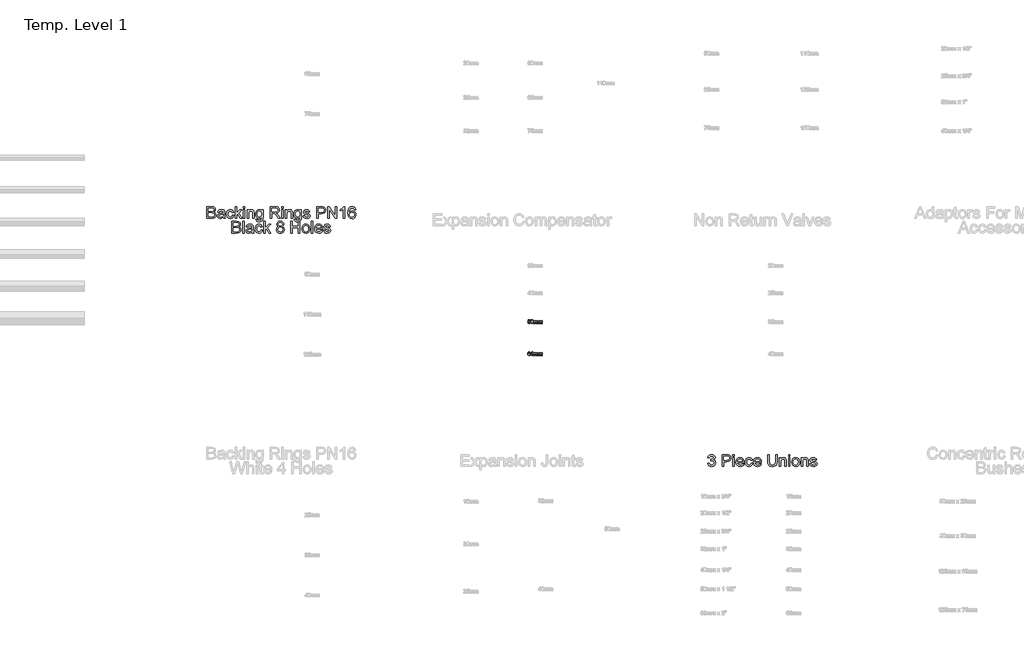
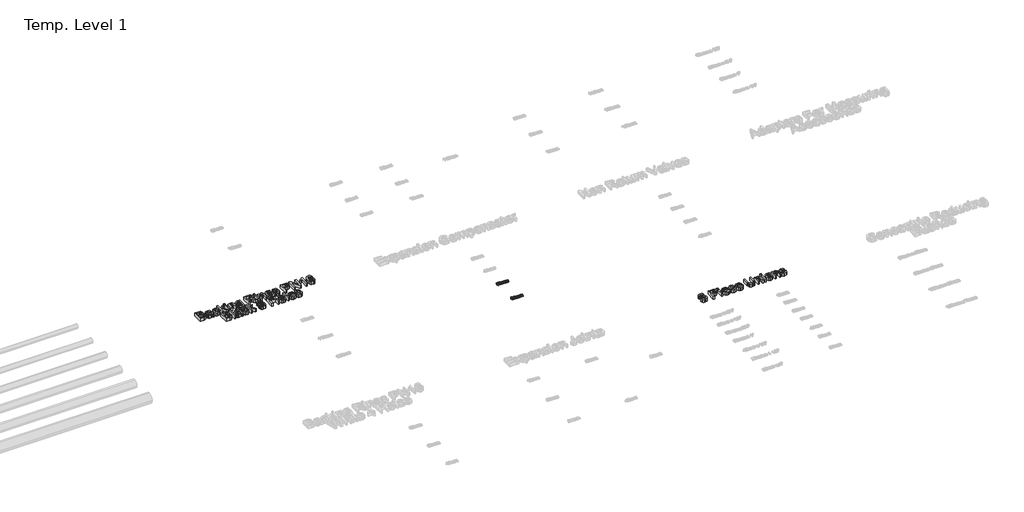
# One storey, part 15 of 62: 4 proxies.
"""IFC4 building model written with IfcOpenShell, lengths in millimetres."""

from ifc_helpers import new_model, si_unit, origin, origin_with_axes, place, context, project, spatial, polyline, outline, extrude, element, save

model = new_model("IFC4")

# Units and contexts
model_context = context("Model", 3, world=origin())
ifc_project = project(units=[si_unit("LENGTHUNIT", "METRE", prefix="MILLI")], contexts=[model_context])

# Site, building, storey
site = spatial("IfcSite", under=ifc_project)
building = spatial("IfcBuilding", under=site)
storey = spatial("IfcBuildingStorey", under=building, Name="Temp. Level 1", Elevation=0.0)

# Proxies
placement = place(None, origin())
element("IfcBuildingElementProxy", 1, Name="150mm Arial", ObjectType="150mm Arial", at=placement, inside=storey, context=model_context, shape_type="SweptSolid", body=[
    extrude(outline(polyline([(8496.1176365, -979.0446709), (8496.1176365, -831.3523632), (8552.4758096, -831.3523632), (8580.0779731, -835.6973151), (8589.3538144, -841.2096348), (8596.37605, -849.0566901), (8602.2714827, -867.9509209), (8597.31355, -885.2045266), (8582.3315788, -898.2754401), (8592.7928168, -903.7381805), (8600.5226846, -912.0494786), (8605.2958216, -922.6594545), (8606.8868673, -935.0182286), (8602.5419154, -954.8679882), (8591.7786942, -969.0026036), (8575.7149923, -976.5026036), (8552.0431173, -979.0446709), (8496.1176365, -979.0446709)]), holes=[polyline([(8514.579175, -960.5831324), (8552.4397519, -960.5831324), (8566.141675, -959.8619786), (8577.7342231, -955.8415459), (8585.4145115, -947.6384209), (8588.4253288, -935.198517), (8584.891675, -920.8475555), (8573.4433577, -912.2838536), (8550.6368673, -909.8139016), (8514.579175, -909.8139016), (8514.579175, -960.5831324)]), polyline([(8514.579175, -891.3523632), (8548.2931173, -891.3523632), (8567.9806173, -889.7658247), (8579.8255692, -882.932892), (8583.8099442, -870.9076516), (8580.0960019, -858.8643824), (8569.4589827, -851.7429882), (8545.7330212, -849.8139016), (8514.579175, -849.8139016), (8514.579175, -891.3523632)])]), origin_with_axes(), (0.0, 0.0, 1.0), 50.0),
    extrude(outline(polyline([(8699.1945596, -965.198517), (8681.2919154, -977.7105362), (8661.5142712, -981.3523632), (8646.0860861, -979.1618584), (8634.7053769, -972.5903439), (8627.6876486, -962.6113776), (8625.3484058, -950.198517), (8628.8820596, -935.5951516), (8638.1669154, -924.9941901), (8651.0935981, -918.9364978), (8667.0671558, -916.1600555), (8699.0863865, -909.8139016), (8699.1945596, -905.7033247), (8697.923526, -897.464142), (8694.110425, -892.073517), (8685.5827808, -888.0711132), (8673.7017712, -886.7369786), (8655.0238865, -890.2886612), (8646.1176365, -902.8908247), (8627.6560981, -900.5831324), (8635.6428769, -882.5542862), (8651.7246077, -871.9893824), (8676.0815788, -868.2754401), (8698.4553769, -871.5566901), (8711.0935981, -879.7958728), (8716.7546558, -892.3259209), (8717.6560981, -908.479767), (8717.6560981, -931.448517), (8718.5935981, -963.5218343), (8722.2714827, -979.0446709), (8703.8099442, -979.0446709), (8699.1945596, -965.198517)]), holes=[polyline([(8699.1945596, -928.2754401), (8669.4109058, -933.9364978), (8653.5274923, -936.9292862), (8646.3339827, -941.7970747), (8643.8099442, -948.9004401), (8649.3087423, -958.8884209), (8665.4445596, -962.8908247), (8684.1224442, -958.4737574), (8696.1657135, -947.7826516), (8699.0863865, -933.5038055), (8699.1945596, -928.2754401)])]), origin_with_axes(), (0.0, 0.0, 1.0), 50.0),
    extrude(outline(polyline([(8812.2714827, -939.8139016), (8830.7330212, -942.1215939), (8825.5857856, -958.5413656), (8815.9133096, -970.9497189), (8802.62605, -978.7517021), (8786.6344635, -981.3523632), (8766.9965428, -977.7240579), (8751.6404731, -966.839142), (8741.7291149, -949.17538), (8738.4253288, -925.2105362), (8744.0683577, -894.5434689), (8751.1897519, -883.0455723), (8761.2678769, -874.8379401), (8773.3246678, -869.9160651), (8786.3820596, -868.2754401), (8801.9815188, -870.5290459), (8814.4529731, -877.2898632), (8823.399788, -888.1973151), (8828.4253288, -902.8908247), (8809.9637904, -905.198517), (8801.4000885, -891.370392), (8786.5262904, -886.7369786), (8774.5957014, -889.0176276), (8765.12605, -895.8595747), (8758.946663, -907.6324112), (8756.8868673, -924.7057286), (8758.9015909, -942.0089137), (8764.9457615, -953.8223151), (8774.2441389, -960.6236973), (8786.0214827, -962.8908247), (8795.5812784, -961.4755603), (8803.4193192, -957.229767), (8809.1209418, -950.0452718), (8812.2714827, -939.8139016)])), origin_with_axes(), (0.0, 0.0, 1.0), 50.0),
    extrude(outline(polyline([(8846.8868673, -979.0446709), (8846.8868673, -831.3523632), (8865.3484058, -831.3523632), (8865.3484058, -910.7153439), (8906.7426365, -870.5831324), (8932.2714827, -870.5831324), (8890.3724442, -911.2201516), (8934.579175, -979.0446709), (8913.016675, -979.0446709), (8877.1392712, -924.0566901), (8865.3484058, -935.4869786), (8865.3484058, -979.0446709), (8846.8868673, -979.0446709)])), origin_with_axes(), (0.0, 0.0, 1.0), 50.0),
    extrude(outline(polyline([(8950.7330212, -979.0446709), (8950.7330212, -870.5831324), (8969.1945596, -870.5831324), (8969.1945596, -979.0446709), (8950.7330212, -979.0446709)])), origin_with_axes(), (0.0, 0.0, 1.0), 50.0),
    extrude(outline(polyline([(8950.7330212, -849.8139016), (8950.7330212, -831.3523632), (8969.1945596, -831.3523632), (8969.1945596, -849.8139016), (8950.7330212, -849.8139016)])), origin_with_axes(), (0.0, 0.0, 1.0), 50.0),
    extrude(outline(polyline([(8996.8868673, -979.0446709), (8996.8868673, -870.5831324), (9015.3484058, -870.5831324), (9015.3484058, -885.7273632), (9029.4649923, -872.6384209), (9048.7378288, -868.2754401), (9066.1717231, -871.7910651), (9078.0707615, -881.0218343), (9083.6056173, -894.5975555), (9084.579175, -912.4461132), (9084.579175, -979.0446709), (9066.1176365, -979.0446709), (9066.1176365, -914.9340939), (9063.9902327, -898.5999593), (9056.4722038, -889.964142), (9043.797925, -886.7369786), (9032.9851245, -888.5488776), (9023.7678769, -893.9845747), (9017.4532736, -904.4863776), (9015.3484058, -921.4965939), (9015.3484058, -979.0446709), (8996.8868673, -979.0446709)])), origin_with_axes(), (0.0, 0.0, 1.0), 50.0),
    extrude(outline(polyline([(9105.3484058, -988.2754401), (9123.8099442, -990.5831324), (9129.7955212, -1000.3187093), (9147.7161942, -1004.4292862), (9166.610425, -999.7778439), (9175.6248481, -986.7249593), (9176.8868673, -965.198517), (9163.8880692, -975.5831324), (9148.0407135, -979.0446709), (9129.0067591, -975.0152237), (9114.81355, -962.9268824), (9105.9839226, -945.2045266), (9103.0407135, -924.2730362), (9108.3231654, -895.6612574), (9114.7865067, -884.0461733), (9123.6116269, -875.4148632), (9134.4965428, -870.0602959), (9147.1392712, -868.2754401), (9163.6086221, -872.3139016), (9176.8868673, -884.4292862), (9176.8868673, -870.5831324), (9195.3484058, -870.5831324), (9195.3484058, -964.2249593), (9194.0863865, -985.8460531), (9190.3003288, -1000.0843343), (9183.7783938, -1009.5269425), (9174.3087423, -1016.761017), (9162.0987063, -1021.3583728), (9147.3556173, -1022.8908247), (9130.1786341, -1020.7318704), (9116.6524923, -1014.2550074), (9107.9761101, -1003.4422069), (9105.3484058, -988.2754401)]), holes=[polyline([(9121.5022519, -923.011017), (9123.4719034, -939.9446108), (9129.3808577, -951.5867382), (9138.2645716, -958.3340338), (9149.1585019, -960.5831324), (9159.9713024, -958.3475555), (9168.9000885, -951.6408247), (9174.8901726, -940.1474353), (9176.8868673, -923.5518824), (9174.8315788, -907.5467742), (9168.6657135, -896.0218343), (9159.6062183, -889.0581925), (9148.8700404, -886.7369786), (9138.3276726, -889.0221348), (9129.4890308, -895.8776036), (9123.4989466, -907.2312694), (9121.5022519, -923.011017)])]), origin_with_axes(), (0.0, 0.0, 1.0), 50.0),
    extrude(outline(polyline([(9283.0407135, -979.0446709), (9283.0407135, -831.3523632), (9346.6825404, -831.3523632), (9376.2318192, -835.3367382), (9385.3273721, -840.8535651), (9392.3856654, -849.4352959), (9396.915413, -860.0768223), (9398.4253288, -871.7730362), (9395.9238264, -886.3223151), (9388.4193192, -898.3836132), (9375.6864466, -907.2267622), (9357.4998481, -912.1215939), (9367.9926365, -920.0182286), (9382.9565788, -939.0206324), (9407.5839827, -979.0446709), (9386.1296558, -979.0446709), (9366.9109058, -948.4316901), (9353.0286942, -928.167267), (9343.2750885, -918.5939497), (9334.4950404, -915.0783247), (9323.7859058, -914.4292862), (9301.5022519, -914.4292862), (9301.5022519, -979.0446709), (9283.0407135, -979.0446709)]), holes=[polyline([(9301.5022519, -895.9677478), (9342.8243673, -895.9677478), (9363.9000885, -893.3535651), (9375.8712423, -884.9881805), (9379.9637904, -872.4581324), (9378.0121678, -863.4527237), (9372.1573, -856.1961132), (9362.0836822, -851.4094545), (9347.4758096, -849.8139016), (9301.5022519, -849.8139016), (9301.5022519, -895.9677478)])]), origin_with_axes(), (0.0, 0.0, 1.0), 50.0),
    extrude(outline(polyline([(9428.4253288, -979.0446709), (9428.4253288, -870.5831324), (9446.8868673, -870.5831324), (9446.8868673, -979.0446709), (9428.4253288, -979.0446709)])), origin_with_axes(), (0.0, 0.0, 1.0), 50.0),
    extrude(outline(polyline([(9428.4253288, -849.8139016), (9428.4253288, -831.3523632), (9446.8868673, -831.3523632), (9446.8868673, -849.8139016), (9428.4253288, -849.8139016)])), origin_with_axes(), (0.0, 0.0, 1.0), 50.0),
    extrude(outline(polyline([(9474.579175, -979.0446709), (9474.579175, -870.5831324), (9493.0407135, -870.5831324), (9493.0407135, -885.7273632), (9507.1573, -872.6384209), (9526.4301365, -868.2754401), (9543.8640308, -871.7910651), (9555.7630692, -881.0218343), (9561.297925, -894.5975555), (9562.2714827, -912.4461132), (9562.2714827, -979.0446709), (9543.8099442, -979.0446709), (9543.8099442, -914.9340939), (9541.6825404, -898.5999593), (9534.1645115, -889.964142), (9521.4902327, -886.7369786), (9510.6774322, -888.5488776), (9501.4601846, -893.9845747), (9495.1455813, -904.4863776), (9493.0407135, -921.4965939), (9493.0407135, -979.0446709), (9474.579175, -979.0446709)])), origin_with_axes(), (0.0, 0.0, 1.0), 50.0),
    extrude(outline(polyline([(9583.0407135, -988.2754401), (9601.5022519, -990.5831324), (9607.4878288, -1000.3187093), (9625.4085019, -1004.4292862), (9644.3027327, -999.7778439), (9653.3171558, -986.7249593), (9654.579175, -965.198517), (9641.5803769, -975.5831324), (9625.7330212, -979.0446709), (9606.6990668, -975.0152237), (9592.5058577, -962.9268824), (9583.6762303, -945.2045266), (9580.7330212, -924.2730362), (9586.0154731, -895.6612574), (9592.4788144, -884.0461733), (9601.3039346, -875.4148632), (9612.1888505, -870.0602959), (9624.8315788, -868.2754401), (9641.3009298, -872.3139016), (9654.579175, -884.4292862), (9654.579175, -870.5831324), (9673.0407135, -870.5831324), (9673.0407135, -964.2249593), (9671.7786942, -985.8460531), (9667.9926365, -1000.0843343), (9661.4707014, -1009.5269425), (9652.00105, -1016.761017), (9639.7910139, -1021.3583728), (9625.047925, -1022.8908247), (9607.8709418, -1020.7318704), (9594.3448, -1014.2550074), (9585.6684178, -1003.4422069), (9583.0407135, -988.2754401)]), holes=[polyline([(9599.1945596, -923.011017), (9601.1642111, -939.9446108), (9607.0731654, -951.5867382), (9615.9568793, -958.3340338), (9626.8508096, -960.5831324), (9637.6636101, -958.3475555), (9646.5923962, -951.6408247), (9652.5824803, -940.1474353), (9654.579175, -923.5518824), (9652.5238865, -907.5467742), (9646.3580212, -896.0218343), (9637.298526, -889.0581925), (9626.5623481, -886.7369786), (9616.0199803, -889.0221348), (9607.1813385, -895.8776036), (9601.1912543, -907.2312694), (9599.1945596, -923.011017)])]), origin_with_axes(), (0.0, 0.0, 1.0), 50.0),
    extrude(outline(polyline([(9693.8099442, -946.7369786), (9712.2714827, -944.4292862), (9715.1831413, -952.3259209), (9720.8171558, -958.1312093), (9740.3964827, -962.8908247), (9759.2185981, -958.5278439), (9765.3484058, -948.2874593), (9759.1825404, -939.9941901), (9740.1801365, -934.729767), (9712.3796558, -925.6973151), (9700.2462423, -915.1504401), (9696.1176365, -900.2586132), (9699.4349442, -886.5026036), (9708.485425, -875.9917862), (9720.2222038, -870.5290459), (9736.1056173, -868.2754401), (9758.5695596, -871.8992382), (9772.8484058, -881.7069305), (9779.1945596, -898.2754401), (9760.7330212, -900.5831324), (9753.7919154, -890.3968343), (9737.547925, -886.7369786), (9719.8796558, -890.2345747), (9714.579175, -898.3836132), (9716.7786942, -903.7562093), (9723.6657135, -907.8307286), (9739.5671558, -911.761017), (9766.6645115, -920.4509209), (9779.2486462, -930.2946709), (9783.8099442, -946.3403439), (9778.4553769, -964.0086132), (9763.0046558, -976.8271228), (9740.1440788, -981.3523632), (9721.5292952, -979.1708728), (9707.9445596, -972.6264016), (9698.87605, -961.7910651), (9693.8099442, -946.7369786)])), origin_with_axes(), (0.0, 0.0, 1.0), 50.0),
    extrude(outline(polyline([(9864.579175, -979.0446709), (9864.579175, -831.3523632), (9919.3147519, -831.3523632), (9941.3820596, -832.7586132), (9959.3207615, -839.6636612), (9970.9493673, -853.9425074), (9975.3484058, -874.0807286), (9972.3781534, -891.4875795), (9963.4673962, -905.9917862), (9946.8042351, -915.7814497), (9920.5767712, -919.0446709), (9883.0407135, -919.0446709), (9883.0407135, -979.0446709), (9864.579175, -979.0446709)]), holes=[polyline([(9883.0407135, -900.5831324), (9921.6585019, -900.5831324), (9938.0286942, -898.8884209), (9948.8460019, -893.8042862), (9954.876651, -885.6462334), (9956.8868673, -874.729767), (9952.1452808, -859.4413055), (9939.6873481, -851.0759209), (9921.2258096, -849.8139016), (9883.0407135, -849.8139016), (9883.0407135, -900.5831324)])]), origin_with_axes(), (0.0, 0.0, 1.0), 50.0),
    extrude(outline(polyline([(10000.7330212, -979.0446709), (10000.7330212, -831.3523632), (10020.4926365, -831.3523632), (10097.6560981, -948.3595747), (10097.6560981, -831.3523632), (10116.1176365, -831.3523632), (10116.1176365, -979.0446709), (10096.3580212, -979.0446709), (10019.1945596, -862.0014016), (10019.1945596, -979.0446709), (10000.7330212, -979.0446709)])), origin_with_axes(), (0.0, 0.0, 1.0), 50.0),
    extrude(outline(polyline([(10210.7330212, -979.0446709), (10192.2714827, -979.0446709), (10192.2714827, -863.948517), (10174.7835019, -876.4064497), (10155.3484058, -885.7273632), (10155.3484058, -868.2754401), (10182.4097038, -851.0038055), (10198.8339827, -831.3523632), (10210.7330212, -831.3523632), (10210.7330212, -979.0446709)])), origin_with_axes(), (0.0, 0.0, 1.0), 50.0),
    extrude(outline(polyline([(10349.1945596, -870.5831324), (10330.7330212, -872.8908247), (10323.7378288, -857.4941901), (10315.3634298, -851.7339737), (10305.2402327, -849.8139016), (10288.5815788, -854.2850555), (10275.9794154, -871.0699112), (10272.1527928, -884.8214137), (10270.7330212, -903.9725555), (10287.0130692, -889.2429882), (10307.1873481, -884.4292862), (10324.2426365, -887.7195507), (10338.5575404, -897.5903439), (10348.266074, -912.6714737), (10351.5022519, -931.5927478), (10349.9788144, -944.8123992), (10345.4085019, -957.0675074), (10338.1699202, -967.4611372), (10328.641675, -975.0963536), (10317.2564587, -979.7883608), (10304.4469635, -981.3523632), (10283.5019514, -977.2057286), (10266.8207615, -964.7658247), (10255.9088024, -942.8066901), (10252.2714827, -910.1023632), (10256.3099442, -873.3325314), (10268.4253288, -848.1913055), (10284.9667952, -835.5620987), (10306.3940788, -831.3523632), (10322.5929971, -833.9575314), (10335.5647519, -841.7730362), (10344.6512904, -854.1858968), (10349.1945596, -870.5831324)]), holes=[polyline([(10270.7330212, -931.3042862), (10275.0058577, -947.2958728), (10286.3640308, -958.9064497), (10303.0046558, -962.8908247), (10315.1876486, -960.8265218), (10324.7654731, -954.6336132), (10330.9719034, -944.8980362), (10333.0407135, -932.2057286), (10330.9989466, -920.0227358), (10324.8736462, -910.7333728), (10315.133562, -904.8514617), (10302.2474442, -902.8908247), (10290.0824803, -904.8514617), (10279.9097038, -910.7333728), (10273.0271918, -919.7973752), (10270.7330212, -931.3042862)])]), origin_with_axes(), (0.0, 0.0, 1.0), 50.0),
    extrude(outline(polyline([(8807.6560981, -1161.3523632), (8807.6560981, -1013.6600555), (8864.0142712, -1013.6600555), (8891.6164346, -1018.0050074), (8900.892276, -1023.5173271), (8907.9145115, -1031.3643824), (8913.8099442, -1050.2586132), (8908.8520115, -1067.5122189), (8893.8700404, -1080.5831324), (8904.3312784, -1086.0458728), (8912.0611462, -1094.3571709), (8916.8342832, -1104.9671468), (8918.4253288, -1117.3259209), (8914.0803769, -1137.1756805), (8903.3171558, -1151.3102959), (8887.2534538, -1158.8102959), (8863.5815788, -1161.3523632), (8807.6560981, -1161.3523632)]), holes=[polyline([(8826.1176365, -1073.6600555), (8859.8315788, -1073.6600555), (8879.5190788, -1072.073517), (8891.3640308, -1065.2405843), (8895.3484058, -1053.2153439), (8891.6344635, -1041.1720747), (8880.9974442, -1034.0506805), (8857.2714827, -1032.1215939), (8826.1176365, -1032.1215939), (8826.1176365, -1073.6600555)]), polyline([(8826.1176365, -1142.8908247), (8863.9782135, -1142.8908247), (8877.6801365, -1142.1696709), (8889.2726846, -1138.1492382), (8896.9529731, -1129.9461132), (8899.9637904, -1117.5062093), (8896.4301365, -1103.1552478), (8884.9818192, -1094.5915459), (8862.1753288, -1092.1215939), (8826.1176365, -1092.1215939), (8826.1176365, -1142.8908247)])]), origin_with_axes(), (0.0, 0.0, 1.0), 50.0),
    extrude(outline(polyline([(8941.5022519, -1161.3523632), (8941.5022519, -1013.6600555), (8959.9637904, -1013.6600555), (8959.9637904, -1161.3523632), (8941.5022519, -1161.3523632)])), origin_with_axes(), (0.0, 0.0, 1.0), 50.0),
    extrude(outline(polyline([(9056.8868673, -1147.5062093), (9038.9842231, -1160.0182286), (9019.2065788, -1163.6600555), (9003.7783938, -1161.4695507), (8992.3976846, -1154.8980362), (8985.3799563, -1144.9190699), (8983.0407135, -1132.5062093), (8986.5743673, -1117.9028439), (8995.8592231, -1107.3018824), (9008.7859058, -1101.2441901), (9024.7594635, -1098.4677478), (9056.7786942, -1092.1215939), (9056.8868673, -1088.011017), (9055.6158337, -1079.7718343), (9051.8027327, -1074.3812093), (9043.2750885, -1070.3788055), (9031.3940788, -1069.0446709), (9012.7161942, -1072.5963536), (9003.8099442, -1085.198517), (8985.3484058, -1082.8908247), (8993.3351846, -1064.8619786), (9009.4169154, -1054.2970747), (9033.7738865, -1050.5831324), (9056.1476846, -1053.8643824), (9068.7859058, -1062.1035651), (9074.4469635, -1074.6336132), (9075.3484058, -1090.7874593), (9075.3484058, -1113.7562093), (9076.2859058, -1145.8295266), (9079.9637904, -1161.3523632), (9061.5022519, -1161.3523632), (9056.8868673, -1147.5062093)]), holes=[polyline([(9056.8868673, -1110.5831324), (9027.1032135, -1116.2441901), (9011.2198, -1119.2369786), (9004.0262904, -1124.104767), (9001.5022519, -1131.2081324), (9007.00105, -1141.1961132), (9023.1368673, -1145.198517), (9041.8147519, -1140.7814497), (9053.8580212, -1130.0903439), (9056.7786942, -1115.8114978), (9056.8868673, -1110.5831324)])]), origin_with_axes(), (0.0, 0.0, 1.0), 50.0),
    extrude(outline(polyline([(9169.9637904, -1122.1215939), (9188.4253288, -1124.4292862), (9183.2780933, -1140.8490579), (9173.6056173, -1153.2574112), (9160.3183577, -1161.0593944), (9144.3267712, -1163.6600555), (9124.6888505, -1160.0317502), (9109.3327808, -1149.1468343), (9099.4214226, -1131.4830723), (9096.1176365, -1107.5182286), (9101.7606654, -1076.8511612), (9108.8820596, -1065.3532646), (9118.9601846, -1057.1456324), (9131.0169755, -1052.2237574), (9144.0743673, -1050.5831324), (9159.6738264, -1052.8367382), (9172.1452808, -1059.5975555), (9181.0920957, -1070.5050074), (9186.1176365, -1085.198517), (9167.6560981, -1087.5062093), (9159.0923962, -1073.6780843), (9144.2185981, -1069.0446709), (9132.2880091, -1071.3253199), (9122.8183577, -1078.167267), (9116.6389707, -1089.9401036), (9114.579175, -1107.0134209), (9116.5938986, -1124.316606), (9122.6380692, -1136.1300074), (9131.9364466, -1142.9313896), (9143.7137904, -1145.198517), (9153.2735861, -1143.7832526), (9161.1116269, -1139.5374593), (9166.8132495, -1132.3529641), (9169.9637904, -1122.1215939)])), origin_with_axes(), (0.0, 0.0, 1.0), 50.0),
    extrude(outline(polyline([(9204.579175, -1161.3523632), (9204.579175, -1013.6600555), (9223.0407135, -1013.6600555), (9223.0407135, -1093.0230362), (9264.4349442, -1052.8908247), (9289.9637904, -1052.8908247), (9248.0647519, -1093.5278439), (9292.2714827, -1161.3523632), (9270.7089827, -1161.3523632), (9234.8315788, -1106.3643824), (9223.0407135, -1117.7946709), (9223.0407135, -1161.3523632), (9204.579175, -1161.3523632)])), origin_with_axes(), (0.0, 0.0, 1.0), 50.0),
    extrude(outline(polyline([(9388.4012904, -1080.0062093), (9371.5803769, -1068.5398632), (9366.1176365, -1050.6913055), (9369.0923962, -1036.2592141), (9378.016675, -1024.3331324), (9391.8898721, -1016.3283247), (9409.7113865, -1013.6600555), (9427.641074, -1016.3914257), (9441.6945596, -1024.5855362), (9450.7810981, -1036.7009209), (9453.8099442, -1051.1961132), (9448.4193192, -1068.5939497), (9432.0671558, -1080.0062093), (9443.4298361, -1085.8610771), (9451.7005692, -1094.4833728), (9456.7441389, -1105.4584329), (9458.4253288, -1118.3715939), (9455.0899923, -1136.0218343), (9445.0839827, -1150.6071709), (9429.6332615, -1160.3968343), (9409.9637904, -1163.6600555), (9390.2943192, -1160.3833127), (9374.8435981, -1150.5530843), (9364.8375885, -1135.8280242), (9361.5022519, -1117.8667862), (9363.25105, -1104.4533247), (9368.4974442, -1093.4196709), (9376.9710019, -1085.1444305), (9388.4012904, -1080.0062093)]), holes=[polyline([(9384.579175, -1051.2321709), (9386.2152928, -1059.2910651), (9391.1236462, -1065.7273632), (9399.1600043, -1069.9461132), (9410.1801365, -1071.3523632), (9420.9433577, -1069.9551276), (9428.8580212, -1065.7634209), (9433.7258096, -1059.5434689), (9435.3484058, -1052.0614978), (9433.6717231, -1044.2955723), (9428.641675, -1037.8727959), (9420.6188385, -1033.5593944), (9409.9637904, -1032.1215939), (9399.2411341, -1033.5278439), (9391.2318192, -1037.7465939), (9386.2423361, -1043.9304882), (9384.579175, -1051.2321709)]), polyline([(9379.9637904, -1117.2177478), (9383.0467231, -1131.1179882), (9393.954175, -1141.5206324), (9410.1080212, -1145.198517), (9422.6741269, -1143.2649233), (9432.1032135, -1137.464142), (9437.9986462, -1128.6795867), (9439.9637904, -1117.7946709), (9437.9355452, -1106.7249593), (9431.8508096, -1097.7465939), (9422.2053769, -1091.7970747), (9409.4950404, -1089.8139016), (9397.1047159, -1091.7700314), (9387.7702808, -1097.6384209), (9381.915413, -1106.4455122), (9379.9637904, -1117.2177478)])]), origin_with_axes(), (0.0, 0.0, 1.0), 50.0),
    extrude(outline(polyline([(9539.1945596, -1161.3523632), (9539.1945596, -1013.6600555), (9557.6560981, -1013.6600555), (9557.6560981, -1073.6600555), (9636.1176365, -1073.6600555), (9636.1176365, -1013.6600555), (9654.579175, -1013.6600555), (9654.579175, -1161.3523632), (9636.1176365, -1161.3523632), (9636.1176365, -1092.1215939), (9557.6560981, -1092.1215939), (9557.6560981, -1161.3523632), (9539.1945596, -1161.3523632)])), origin_with_axes(), (0.0, 0.0, 1.0), 50.0),
    extrude(outline(polyline([(9679.9637904, -1107.1215939), (9683.9571798, -1080.9707526), (9695.9373481, -1062.5903439), (9710.7390308, -1053.5849353), (9728.4613865, -1050.5831324), (9747.8559178, -1054.238481), (9763.3472038, -1065.2045266), (9773.5019514, -1082.6158848), (9776.8868673, -1105.6071709), (9775.3904731, -1124.2580122), (9770.9012904, -1138.4557286), (9763.5500284, -1149.0882406), (9753.4673962, -1157.0434689), (9741.4917351, -1162.0059088), (9728.4613865, -1163.6600555), (9708.8324803, -1160.0182286), (9693.3592231, -1149.0927478), (9683.3126486, -1131.3163055), (9679.9637904, -1107.1215939)]), holes=[polyline([(9698.4253288, -1107.0855362), (9700.5617471, -1123.7937694), (9706.9710019, -1135.6973151), (9716.6164346, -1142.8232165), (9728.4613865, -1145.198517), (9740.2522519, -1142.8096949), (9749.8796558, -1135.6432286), (9756.2889106, -1123.5819305), (9758.4253288, -1106.5086132), (9756.2753889, -1090.2871588), (9749.8255692, -1078.5458728), (9740.1846438, -1071.4199713), (9728.4613865, -1069.0446709), (9716.6164346, -1071.4109569), (9706.9710019, -1078.5098151), (9700.5617471, -1090.3863175), (9698.4253288, -1107.0855362)])]), origin_with_axes(), (0.0, 0.0, 1.0), 50.0),
    extrude(outline(polyline([(9797.6560981, -1161.3523632), (9797.6560981, -1013.6600555), (9816.1176365, -1013.6600555), (9816.1176365, -1161.3523632), (9797.6560981, -1161.3523632)])), origin_with_axes(), (0.0, 0.0, 1.0), 50.0),
    extrude(outline(polyline([(9919.7474442, -1129.0446709), (9937.8484058, -1131.3523632), (9931.3264707, -1144.9911853), (9920.9193192, -1155.1864978), (9906.8613264, -1161.5416661), (9889.3868673, -1163.6600555), (9867.7252087, -1160.0047069), (9851.0575404, -1149.0386612), (9840.4295356, -1131.4740579), (9836.8868673, -1108.0230362), (9840.4655933, -1083.7832526), (9851.2017712, -1065.6552478), (9867.6440788, -1054.3511612), (9888.3411942, -1050.5831324), (9908.3937784, -1054.3421468), (9924.4169154, -1065.6191901), (9934.9232255, -1083.7111372), (9938.4253288, -1107.9148632), (9938.3171558, -1112.8908247), (9855.3484058, -1112.8908247), (9858.5440188, -1126.7099353), (9865.9673962, -1136.8691901), (9876.681038, -1143.1161853), (9889.7474442, -1145.198517), (9907.8484058, -1141.3403439), (9919.7474442, -1129.0446709)]), holes=[polyline([(9855.3484058, -1094.4292862), (9919.9637904, -1094.4292862), (9917.4667952, -1084.6756805), (9912.5719635, -1077.698517), (9901.8087423, -1071.2081324), (9888.2690788, -1069.0446709), (9875.8246678, -1070.7709329), (9865.5347038, -1075.9497189), (9858.3817591, -1084.0221348), (9855.3484058, -1094.4292862)])]), origin_with_axes(), (0.0, 0.0, 1.0), 50.0),
    extrude(outline(polyline([(9949.9637904, -1129.0446709), (9968.4253288, -1126.7369786), (9971.3369875, -1134.6336132), (9976.9710019, -1140.4389016), (9996.5503288, -1145.198517), (10015.3724442, -1140.8355362), (10021.5022519, -1130.5951516), (10015.3363865, -1122.3018824), (9996.3339827, -1117.0374593), (9968.5335019, -1108.0050074), (9956.4000885, -1097.4581324), (9952.2714827, -1082.5663055), (9955.5887904, -1068.8102959), (9964.6392712, -1058.2994786), (9976.37605, -1052.8367382), (9992.2594635, -1050.5831324), (10014.7234058, -1054.2069305), (10029.0022519, -1064.0146228), (10035.3484058, -1080.5831324), (10016.8868673, -1082.8908247), (10009.9457615, -1072.7045266), (9993.7017712, -1069.0446709), (9976.0335019, -1072.542267), (9970.7330212, -1080.6913055), (9972.9325404, -1086.0639016), (9979.8195596, -1090.1384209), (9995.7210019, -1094.0687093), (10022.8183577, -1102.7586132), (10035.4024923, -1112.6023632), (10039.9637904, -1128.6480362), (10034.6092231, -1146.3163055), (10019.1585019, -1159.1348151), (9996.297925, -1163.6600555), (9977.6831413, -1161.4785651), (9964.0984058, -1154.9340939), (9955.0298962, -1144.0987574), (9949.9637904, -1129.0446709)])), origin_with_axes(), (0.0, 0.0, 1.0), 50.0),
])
element("IfcBuildingElementProxy", 2, Name="150mm Arial", ObjectType="150mm Arial", at=placement, inside=storey, context=model_context, shape_type="SweptSolid", body=[
    extrude(outline(polyline([(14739.579175, -4030.9677478), (14758.0407135, -4028.6600555), (14762.1738264, -4040.261618), (14768.2270115, -4048.0951516), (14776.4977447, -4052.5572911), (14787.2835019, -4054.0446709), (14799.9397519, -4051.9983968), (14809.7113865, -4045.8595747), (14815.9583817, -4036.7009209), (14818.0407135, -4025.5951516), (14815.9764106, -4015.0527838), (14809.7835019, -4006.5026036), (14800.4085019, -4000.8370387), (14788.797925, -3998.948517), (14775.8532135, -4000.9677478), (14777.9085019, -3982.5062093), (14780.8652327, -3982.7225555), (14801.8147519, -3977.4220747), (14808.7919154, -3970.6973151), (14811.1176365, -3961.1239978), (14809.4319394, -3953.1507406), (14804.3748481, -3946.682892), (14796.6585019, -3942.3965338), (14786.9950404, -3940.9677478), (14777.31355, -3942.4100555), (14769.3988865, -3946.7369786), (14763.6206413, -3953.948517), (14760.3484058, -3964.0446709), (14741.8868673, -3961.7369786), (14747.3225644, -3945.1594545), (14756.9950404, -3932.7826516), (14770.2282135, -3925.0753199), (14786.3460019, -3922.5062093), (14808.6116269, -3927.5723151), (14824.18855, -3941.4184689), (14829.579175, -3960.042267), (14824.4589827, -3977.0614978), (14809.3147519, -3989.2850555), (14820.8712423, -3993.9545266), (14829.4349442, -4001.9052478), (14834.735425, -4012.7045266), (14836.5022519, -4025.9196709), (14832.9685981, -4043.9124593), (14822.3676365, -4058.948517), (14806.3670356, -4069.1167862), (14786.6344635, -4072.5062093), (14768.7859058, -4069.6125795), (14754.2546558, -4060.9316901), (14744.1494875, -4047.6534449), (14739.579175, -4030.9677478)])), origin_with_axes(), (0.0, 0.0, 1.0), 50.0),
    extrude(outline(polyline([(14917.2714827, -4070.198517), (14917.2714827, -3922.5062093), (14972.0070596, -3922.5062093), (14994.0743673, -3923.9124593), (15012.0130692, -3930.8175074), (15023.641675, -3945.0963536), (15028.0407135, -3965.2345747), (15025.0704611, -3982.6414257), (15016.1597038, -3997.1456324), (14999.4965428, -4006.9352959), (14973.2690788, -4010.198517), (14935.7330212, -4010.198517), (14935.7330212, -4070.198517), (14917.2714827, -4070.198517)]), holes=[polyline([(14935.7330212, -3991.7369786), (14974.3508096, -3991.7369786), (14990.7210019, -3990.042267), (15001.5383096, -3984.9581324), (15007.5689587, -3976.8000795), (15009.579175, -3965.8836132), (15004.8375885, -3950.5951516), (14992.3796558, -3942.229767), (14973.9181173, -3940.9677478), (14935.7330212, -3940.9677478), (14935.7330212, -3991.7369786)])]), origin_with_axes(), (0.0, 0.0, 1.0), 50.0),
    extrude(outline(polyline([(15051.1176365, -3940.9677478), (15051.1176365, -3922.5062093), (15069.579175, -3922.5062093), (15069.579175, -3940.9677478), (15051.1176365, -3940.9677478)])), origin_with_axes(), (0.0, 0.0, 1.0), 50.0),
    extrude(outline(polyline([(15051.1176365, -4070.198517), (15051.1176365, -3961.7369786), (15069.579175, -3961.7369786), (15069.579175, -4070.198517), (15051.1176365, -4070.198517)])), origin_with_axes(), (0.0, 0.0, 1.0), 50.0),
    extrude(outline(polyline([(15173.2089827, -4037.8908247), (15191.3099442, -4040.198517), (15184.7880091, -4053.8373391), (15174.3808577, -4064.0326516), (15160.3228649, -4070.3878199), (15142.8484058, -4072.5062093), (15121.1867471, -4068.8508608), (15104.5190788, -4057.8848151), (15093.891074, -4040.3202117), (15090.3484058, -4016.8691901), (15093.9271317, -3992.6294064), (15104.6633096, -3974.5014016), (15121.1056173, -3963.1973151), (15141.8027327, -3959.4292862), (15161.8553168, -3963.1883007), (15177.8784538, -3974.4653439), (15188.3847639, -3992.5572911), (15191.8868673, -4016.761017), (15191.7786942, -4021.7369786), (15108.8099442, -4021.7369786), (15112.0055572, -4035.5560891), (15119.4289346, -4045.7153439), (15130.1425764, -4051.9623391), (15143.2089827, -4054.0446709), (15161.3099442, -4050.1864978), (15173.2089827, -4037.8908247)]), holes=[polyline([(15108.8099442, -4003.2754401), (15173.4253288, -4003.2754401), (15170.9283337, -3993.5218343), (15166.0335019, -3986.5446709), (15155.2702808, -3980.0542862), (15141.7306173, -3977.8908247), (15129.2862063, -3979.6170867), (15118.9962423, -3984.7958728), (15111.8432976, -3992.8682887), (15108.8099442, -4003.2754401)])]), origin_with_axes(), (0.0, 0.0, 1.0), 50.0),
    extrude(outline(polyline([(15279.579175, -4030.9677478), (15298.0407135, -4033.2754401), (15292.8934779, -4049.6952117), (15283.2210019, -4062.1035651), (15269.9337423, -4069.9055483), (15253.9421558, -4072.5062093), (15234.3042351, -4068.877904), (15218.9481654, -4057.9929882), (15209.0368072, -4040.3292262), (15205.7330212, -4016.3643824), (15211.37605, -3985.6973151), (15218.4974442, -3974.1994185), (15228.5755692, -3965.9917862), (15240.6323601, -3961.0699112), (15253.6897519, -3959.4292862), (15269.2892111, -3961.682892), (15281.7606654, -3968.4437093), (15290.7074803, -3979.3511612), (15295.7330212, -3994.0446709), (15277.2714827, -3996.3523632), (15268.7077808, -3982.5242382), (15253.8339827, -3977.8908247), (15241.9033938, -3980.1714737), (15232.4337423, -3987.0134209), (15226.2543553, -3998.7862574), (15224.1945596, -4015.8595747), (15226.2092832, -4033.1627598), (15232.2534538, -4044.9761612), (15241.5518313, -4051.7775435), (15253.329175, -4054.0446709), (15262.8889707, -4052.6294064), (15270.7270115, -4048.3836132), (15276.4286341, -4041.199118), (15279.579175, -4030.9677478)])), origin_with_axes(), (0.0, 0.0, 1.0), 50.0),
    extrude(outline(polyline([(15390.1320596, -4037.8908247), (15408.2330212, -4040.198517), (15401.7110861, -4053.8373391), (15391.3039346, -4064.0326516), (15377.2459418, -4070.3878199), (15359.7714827, -4072.5062093), (15338.109824, -4068.8508608), (15321.4421558, -4057.8848151), (15310.814151, -4040.3202117), (15307.2714827, -4016.8691901), (15310.8502087, -3992.6294064), (15321.5863865, -3974.5014016), (15338.0286942, -3963.1973151), (15358.7258096, -3959.4292862), (15378.7783938, -3963.1883007), (15394.8015308, -3974.4653439), (15405.3078409, -3992.5572911), (15408.8099442, -4016.761017), (15408.7017712, -4021.7369786), (15325.7330212, -4021.7369786), (15328.9286341, -4035.5560891), (15336.3520115, -4045.7153439), (15347.0656534, -4051.9623391), (15360.1320596, -4054.0446709), (15378.2330212, -4050.1864978), (15390.1320596, -4037.8908247)]), holes=[polyline([(15325.7330212, -4003.2754401), (15390.3484058, -4003.2754401), (15387.8514106, -3993.5218343), (15382.9565788, -3986.5446709), (15372.1933577, -3980.0542862), (15358.6536942, -3977.8908247), (15346.2092832, -3979.6170867), (15335.9193192, -3984.7958728), (15328.7663745, -3992.8682887), (15325.7330212, -4003.2754401)])]), origin_with_axes(), (0.0, 0.0, 1.0), 50.0),
    extrude(outline(polyline([(15584.1945596, -3922.5062093), (15602.6560981, -3922.5062093), (15602.6560981, -4007.7105362), (15597.6440788, -4043.0290459), (15590.6218433, -4054.8830122), (15579.579175, -4064.3030843), (15564.4890308, -4070.4554281), (15545.3243673, -4072.5062093), (15526.5788745, -4070.7213536), (15511.5923962, -4065.3667862), (15500.360425, -4056.6273031), (15492.8784538, -4044.6876997), (15488.6732255, -4028.6735771), (15487.2714827, -4007.7105362), (15487.2714827, -3922.5062093), (15505.7330212, -3922.5062093), (15505.7330212, -4007.0614978), (15509.3748481, -4035.2045266), (15514.3237663, -4043.2048271), (15521.8868673, -4049.1408247), (15543.5935981, -4054.0446709), (15562.3706413, -4051.6197911), (15574.8556173, -4044.3451516), (15581.859824, -4030.1744786), (15584.1945596, -4007.0614978), (15584.1945596, -3922.5062093)])), origin_with_axes(), (0.0, 0.0, 1.0), 50.0),
    extrude(outline(polyline([(15632.6560981, -4070.198517), (15632.6560981, -3961.7369786), (15651.1176365, -3961.7369786), (15651.1176365, -3976.8812093), (15665.2342231, -3963.792267), (15684.5070596, -3959.4292862), (15701.9409538, -3962.9449112), (15713.8399923, -3972.1756805), (15719.3748481, -3985.7514016), (15720.3484058, -4003.5999593), (15720.3484058, -4070.198517), (15701.8868673, -4070.198517), (15701.8868673, -4006.0879401), (15699.7594635, -3989.7538055), (15692.2414346, -3981.1179882), (15679.5671558, -3977.8908247), (15668.7543553, -3979.7027237), (15659.5371077, -3985.1384209), (15653.2225043, -3995.6402237), (15651.1176365, -4012.6504401), (15651.1176365, -4070.198517), (15632.6560981, -4070.198517)])), origin_with_axes(), (0.0, 0.0, 1.0), 50.0),
    extrude(outline(polyline([(15745.7330212, -3940.9677478), (15745.7330212, -3922.5062093), (15764.1945596, -3922.5062093), (15764.1945596, -3940.9677478), (15745.7330212, -3940.9677478)])), origin_with_axes(), (0.0, 0.0, 1.0), 50.0),
    extrude(outline(polyline([(15745.7330212, -4070.198517), (15745.7330212, -3961.7369786), (15764.1945596, -3961.7369786), (15764.1945596, -4070.198517), (15745.7330212, -4070.198517)])), origin_with_axes(), (0.0, 0.0, 1.0), 50.0),
    extrude(outline(polyline([(15787.2714827, -4015.9677478), (15791.2648721, -3989.8169064), (15803.2450404, -3971.4364978), (15818.0467231, -3962.4310891), (15835.7690788, -3959.4292862), (15855.1636101, -3963.0846348), (15870.6548962, -3974.0506805), (15880.8096438, -3991.4620387), (15884.1945596, -4014.4533247), (15882.6981654, -4033.1041661), (15878.2089827, -4047.3018824), (15870.8577207, -4057.9343944), (15860.7750885, -4065.8896228), (15848.7994274, -4070.8520627), (15835.7690788, -4072.5062093), (15816.1401726, -4068.8643824), (15800.6669154, -4057.9389016), (15790.6203409, -4040.1624593), (15787.2714827, -4015.9677478)]), holes=[polyline([(15805.7330212, -4015.9316901), (15807.8694394, -4032.6399233), (15814.2786942, -4044.5434689), (15823.9241269, -4051.6693704), (15835.7690788, -4054.0446709), (15847.5599442, -4051.6558487), (15857.1873481, -4044.4893824), (15863.5966029, -4032.4280843), (15865.7330212, -4015.354767), (15863.5830813, -3999.1333127), (15857.1332615, -3987.3920266), (15847.4923361, -3980.2661252), (15835.7690788, -3977.8908247), (15823.9241269, -3980.2571108), (15814.2786942, -3987.3559689), (15807.8694394, -3999.2324713), (15805.7330212, -4015.9316901)])]), origin_with_axes(), (0.0, 0.0, 1.0), 50.0),
    extrude(outline(polyline([(15904.9637904, -4070.198517), (15904.9637904, -3961.7369786), (15923.4253288, -3961.7369786), (15923.4253288, -3976.8812093), (15937.5419154, -3963.792267), (15956.8147519, -3959.4292862), (15974.2486462, -3962.9449112), (15986.1476846, -3972.1756805), (15991.6825404, -3985.7514016), (15992.6560981, -4003.5999593), (15992.6560981, -4070.198517), (15974.1945596, -4070.198517), (15974.1945596, -4006.0879401), (15972.0671558, -3989.7538055), (15964.5491269, -3981.1179882), (15951.8748481, -3977.8908247), (15941.0620476, -3979.7027237), (15931.8448, -3985.1384209), (15925.5301966, -3995.6402237), (15923.4253288, -4012.6504401), (15923.4253288, -4070.198517), (15904.9637904, -4070.198517)])), origin_with_axes(), (0.0, 0.0, 1.0), 50.0),
    extrude(outline(polyline([(16011.1176365, -4037.8908247), (16029.579175, -4035.5831324), (16032.4908337, -4043.479767), (16038.1248481, -4049.2850555), (16057.704175, -4054.0446709), (16076.5262904, -4049.6816901), (16082.6560981, -4039.4413055), (16076.4902327, -4031.1480362), (16057.4878288, -4025.8836132), (16029.6873481, -4016.8511612), (16017.5539346, -4006.3042862), (16013.4253288, -3991.4124593), (16016.7426365, -3977.6564497), (16025.7931173, -3967.1456324), (16037.5298962, -3961.682892), (16053.4133096, -3959.4292862), (16075.8772519, -3963.0530843), (16090.1560981, -3972.8607766), (16096.5022519, -3989.4292862), (16078.0407135, -3991.7369786), (16071.0996077, -3981.5506805), (16054.8556173, -3977.8908247), (16037.1873481, -3981.3884209), (16031.8868673, -3989.5374593), (16034.0863865, -3994.9100555), (16040.9734058, -3998.9845747), (16056.8748481, -4002.9148632), (16083.9722038, -4011.604767), (16096.5563385, -4021.448517), (16101.1176365, -4037.4941901), (16095.7630692, -4055.1624593), (16080.3123481, -4067.9809689), (16057.4517712, -4072.5062093), (16038.8369875, -4070.3247189), (16025.2522519, -4063.7802478), (16016.1837423, -4052.9449112), (16011.1176365, -4037.8908247)])), origin_with_axes(), (0.0, 0.0, 1.0), 50.0),
])
element("IfcBuildingElementProxy", 3, Name="50mm Arial", ObjectType="50mm Arial", at=placement, inside=storey, context=model_context, shape_type="SweptSolid", body=[
    extrude(outline(polyline([(12495.3245939, -2277.1215939), (12501.4784401, -2276.3523632), (12504.5794016, -2282.6925074), (12511.0096901, -2284.8139016), (12518.7260362, -2281.8631805), (12521.4784401, -2274.0326516), (12518.9003151, -2266.7249593), (12511.1058439, -2264.0446709), (12505.7031997, -2265.1143824), (12502.2476708, -2267.8908247), (12496.0938247, -2267.1215939), (12501.4784401, -2241.7369786), (12525.3245939, -2241.7369786), (12525.3245939, -2247.8908247), (12506.4544016, -2247.8908247), (12503.8221901, -2261.448517), (12512.8245939, -2257.8908247), (12523.3474304, -2262.3018824), (12527.6322862, -2273.6480362), (12523.7741131, -2285.0663055), (12518.2332477, -2289.4923872), (12510.9856516, -2290.9677478), (12500.1262766, -2287.1756805), (12495.3245939, -2277.1215939)])), origin_with_axes(), (0.0, 0.0, 1.0), 15.0),
    extrude(outline(polyline([(12533.0169016, -2265.979767), (12534.8257958, -2251.8151036), (12540.198392, -2243.6480362), (12549.1707477, -2240.9677478), (12556.3582477, -2242.5542862), (12561.3221901, -2247.1276036), (12564.2068054, -2254.4112574), (12565.3245939, -2265.979767), (12563.5337285, -2280.0843343), (12558.1791612, -2288.2694305), (12549.1707477, -2290.9677478), (12537.9207477, -2286.2802478), (12534.2428631, -2277.9539257), (12533.0169016, -2265.979767)]), holes=[polyline([(12539.1707477, -2265.9677478), (12542.0553631, -2281.2501997), (12549.1707477, -2284.8139016), (12556.2861324, -2281.2381805), (12559.1707477, -2265.9677478), (12556.3822862, -2250.8595747), (12549.0986324, -2247.1215939), (12542.151517, -2250.4148632), (12539.1707477, -2265.9677478)])]), origin_with_axes(), (0.0, 0.0, 1.0), 15.0),
    extrude(outline(polyline([(12572.2476708, -2290.198517), (12572.2476708, -2254.0446709), (12578.401517, -2254.0446709), (12578.401517, -2259.9941901), (12582.6322862, -2255.120392), (12588.6539208, -2253.2754401), (12594.8197862, -2255.1564497), (12598.2092093, -2260.4268824), (12603.010892, -2255.0633007), (12609.0745939, -2253.2754401), (12617.1214689, -2256.2501997), (12619.9399785, -2265.4148632), (12619.9399785, -2290.198517), (12613.7861324, -2290.198517), (12613.7861324, -2268.0590939), (12613.2152189, -2262.9208728), (12611.1479112, -2260.3908247), (12607.6322862, -2259.4292862), (12601.5806035, -2261.8932286), (12599.1707477, -2269.7898632), (12599.1707477, -2290.198517), (12593.0169016, -2290.198517), (12593.0169016, -2267.3739978), (12591.5926227, -2261.4124593), (12586.9231516, -2259.4292862), (12582.3678631, -2260.7514016), (12579.339017, -2264.6215939), (12578.401517, -2271.9653439), (12578.401517, -2290.198517), (12572.2476708, -2290.198517)])), origin_with_axes(), (0.0, 0.0, 1.0), 15.0),
    extrude(outline(polyline([(12629.1707477, -2290.198517), (12629.1707477, -2254.0446709), (12635.3245939, -2254.0446709), (12635.3245939, -2259.9941901), (12639.5553631, -2255.120392), (12645.5769977, -2253.2754401), (12651.7428631, -2255.1564497), (12655.1322862, -2260.4268824), (12659.9339689, -2255.0633007), (12665.9976708, -2253.2754401), (12674.0445458, -2256.2501997), (12676.8630554, -2265.4148632), (12676.8630554, -2290.198517), (12670.7092093, -2290.198517), (12670.7092093, -2268.0590939), (12670.1382958, -2262.9208728), (12668.0709881, -2260.3908247), (12664.5553631, -2259.4292862), (12658.5036804, -2261.8932286), (12656.0938247, -2269.7898632), (12656.0938247, -2290.198517), (12649.9399785, -2290.198517), (12649.9399785, -2267.3739978), (12648.5156997, -2261.4124593), (12643.8462285, -2259.4292862), (12639.2909401, -2260.7514016), (12636.2620939, -2264.6215939), (12635.3245939, -2271.9653439), (12635.3245939, -2290.198517), (12629.1707477, -2290.198517)])), origin_with_axes(), (0.0, 0.0, 1.0), 15.0),
])
element("IfcBuildingElementProxy", 4, Name="50mm Arial", ObjectType="50mm Arial", at=placement, inside=storey, context=model_context, shape_type="SweptSolid", body=[
    extrude(outline(polyline([(12526.8630554, -2654.0446709), (12520.7092093, -2654.8139016), (12518.3774785, -2649.6816901), (12512.2116131, -2647.1215939), (12506.6587285, -2648.6119786), (12502.4580074, -2654.2069305), (12500.7092093, -2665.1744786), (12506.135892, -2660.2646228), (12512.8606516, -2658.6600555), (12523.3173824, -2663.0470747), (12527.6322862, -2674.3812093), (12525.6010362, -2682.8727959), (12520.0120939, -2688.8824112), (12511.9471901, -2690.9677478), (12499.4051227, -2685.4389016), (12495.767803, -2678.1191901), (12494.5553631, -2667.2177478), (12495.901517, -2654.9611372), (12499.9399785, -2646.5807286), (12505.4538006, -2642.370993), (12512.5962285, -2640.9677478), (12522.3197862, -2644.4413055), (12526.8630554, -2654.0446709)]), holes=[polyline([(12500.7092093, -2674.2850555), (12502.1334881, -2679.6155843), (12505.9195458, -2683.4857766), (12511.4664208, -2684.8139016), (12518.7200266, -2682.0614978), (12521.4784401, -2674.5855362), (12518.7560843, -2667.4280843), (12511.214017, -2664.8139016), (12503.7681035, -2667.4280843), (12500.7092093, -2674.2850555)])]), origin_with_axes(), (0.0, 0.0, 1.0), 15.0),
    extrude(outline(polyline([(12533.0169016, -2677.1215939), (12539.1707477, -2676.3523632), (12542.5661804, -2682.8307286), (12548.9183439, -2684.8139016), (12556.3943054, -2682.0855362), (12559.1707477, -2675.3307286), (12556.4183439, -2668.9665459), (12549.4231516, -2666.448517), (12545.1082477, -2667.1215939), (12545.7933439, -2660.9677478), (12553.7620939, -2659.2730362), (12556.8630554, -2653.8403439), (12554.6154593, -2649.026642), (12548.8221901, -2647.1215939), (12542.9568054, -2649.0446709), (12539.9399785, -2654.8139016), (12533.7861324, -2654.0446709), (12538.8221901, -2644.3932286), (12548.6058439, -2640.9677478), (12556.0277189, -2642.6564497), (12561.2200266, -2647.2718343), (12563.0169016, -2653.479767), (12561.3101708, -2659.1528439), (12556.2620939, -2663.2273632), (12562.9688247, -2667.4340939), (12565.3245939, -2675.4389016), (12560.6130554, -2686.448517), (12548.7019977, -2690.9677478), (12537.9087285, -2687.1095747), (12533.0169016, -2677.1215939)])), origin_with_axes(), (0.0, 0.0, 1.0), 15.0),
    extrude(outline(polyline([(12572.2476708, -2690.198517), (12572.2476708, -2654.0446709), (12578.401517, -2654.0446709), (12578.401517, -2659.9941901), (12582.6322862, -2655.120392), (12588.6539208, -2653.2754401), (12594.8197862, -2655.1564497), (12598.2092093, -2660.4268824), (12603.010892, -2655.0633007), (12609.0745939, -2653.2754401), (12617.1214689, -2656.2501997), (12619.9399785, -2665.4148632), (12619.9399785, -2690.198517), (12613.7861324, -2690.198517), (12613.7861324, -2668.0590939), (12613.2152189, -2662.9208728), (12611.1479112, -2660.3908247), (12607.6322862, -2659.4292862), (12601.5806035, -2661.8932286), (12599.1707477, -2669.7898632), (12599.1707477, -2690.198517), (12593.0169016, -2690.198517), (12593.0169016, -2667.3739978), (12591.5926227, -2661.4124593), (12586.9231516, -2659.4292862), (12582.3678631, -2660.7514016), (12579.339017, -2664.6215939), (12578.401517, -2671.9653439), (12578.401517, -2690.198517), (12572.2476708, -2690.198517)])), origin_with_axes(), (0.0, 0.0, 1.0), 15.0),
    extrude(outline(polyline([(12629.1707477, -2690.198517), (12629.1707477, -2654.0446709), (12635.3245939, -2654.0446709), (12635.3245939, -2659.9941901), (12639.5553631, -2655.120392), (12645.5769977, -2653.2754401), (12651.7428631, -2655.1564497), (12655.1322862, -2660.4268824), (12659.9339689, -2655.0633007), (12665.9976708, -2653.2754401), (12674.0445458, -2656.2501997), (12676.8630554, -2665.4148632), (12676.8630554, -2690.198517), (12670.7092093, -2690.198517), (12670.7092093, -2668.0590939), (12670.1382958, -2662.9208728), (12668.0709881, -2660.3908247), (12664.5553631, -2659.4292862), (12658.5036804, -2661.8932286), (12656.0938247, -2669.7898632), (12656.0938247, -2690.198517), (12649.9399785, -2690.198517), (12649.9399785, -2667.3739978), (12648.5156997, -2661.4124593), (12643.8462285, -2659.4292862), (12639.2909401, -2660.7514016), (12636.2620939, -2664.6215939), (12635.3245939, -2671.9653439), (12635.3245939, -2690.198517), (12629.1707477, -2690.198517)])), origin_with_axes(), (0.0, 0.0, 1.0), 15.0),
])

save(model, "model.ifc")
